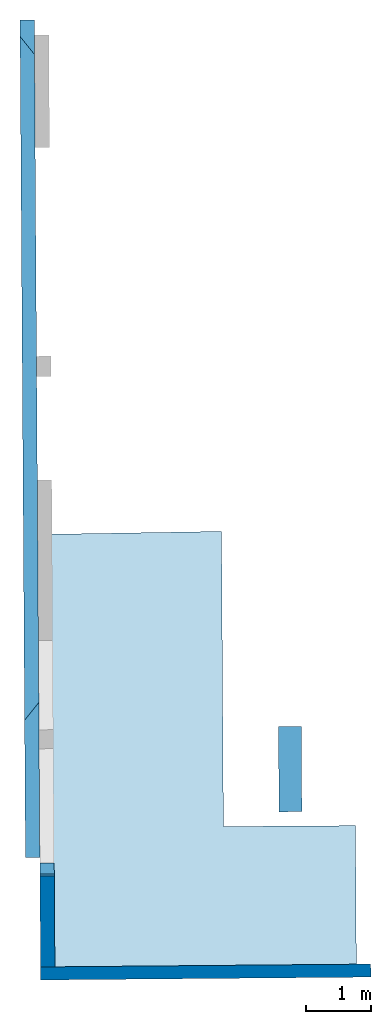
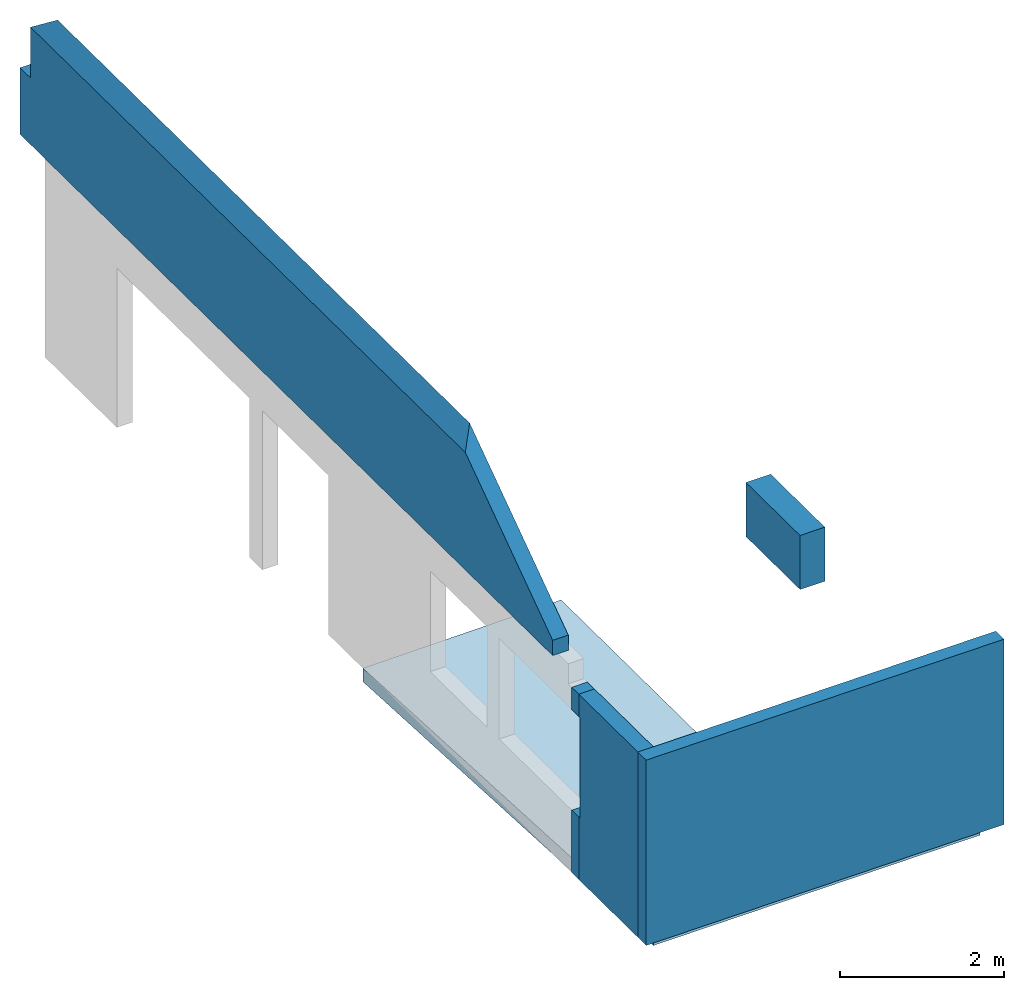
# One storey, part 1 of 2: 5 walls, 1 slab, 5 openings.
"""IFC2X3 building model written with IfcOpenShell, lengths in centimetres."""

import ifcopenshell
import ifcopenshell.guid

model = None  # the IFC model being written
_history = None  # IfcOwnerHistory: only IFC2X3 demands one
_inside = {}  # id of a spatial element -> (the spatial element, [elements in it])
_under = {}  # id of a project, library or spatial element -> (it, [spatial elements below it])
_declared = {}  # id of a project -> (the project, [libraries it declares])
_typed = {}  # id of a type object -> (the type object, [elements of that type])
_made_of = {}  # id of a material, layer set ... -> (it, [elements and type objects made of it])


def new_model(schema):
    """Start an empty IFC model of exactly this schema.

    Asked for "IFC4X3", IfcOpenShell would pick the latest addendum, in which some entities
    have other attributes; the version numbers below select the first issue.
    IFC2X3 requires an IfcOwnerHistory on every rooted entity: one is made here for all.
    """
    global model, _history
    if schema == "IFC4X3":
        model = ifcopenshell.file(schema_version=(4, 3, 0, 0))
    else:
        model = ifcopenshell.file(schema=schema)
    _inside.clear()
    _under.clear()
    _declared.clear()
    _typed.clear()
    _made_of.clear()
    _history = None
    if model.schema == "IFC2X3":
        org = make("IfcOrganization", Name="unknown")
        user = make(
            "IfcPersonAndOrganization",
            ThePerson=make("IfcPerson", FamilyName="unknown"),
            TheOrganization=org,
        )
        app = make(
            "IfcApplication",
            ApplicationDeveloper=org,
            Version="unknown",
            ApplicationFullName="unknown",
            ApplicationIdentifier="unknown",
        )
        _history = make(
            "IfcOwnerHistory",
            OwningUser=user,
            OwningApplication=app,
            ChangeAction="ADDED",
            CreationDate=0,
        )
    return model


def make(cls, **values):
    """One entity of the class cls with the attributes given. An attribute that is None is left unset."""
    return model.create_entity(
        cls, **{name: value for name, value in values.items() if value is not None}
    )


def entity(cls, *values):
    """Any entity or typed value of the class cls, its attributes in the order of the schema. None: left unset."""
    e = model.create_entity(cls)
    for i, value in enumerate(values):
        if value is not None:
            e[i] = value
    return e


def rooted(cls, **values):
    """An entity with a GlobalId (a new one), such as an element, a storey or a relation."""
    return make(cls, GlobalId=ifcopenshell.guid.new(), OwnerHistory=_history, **values)


def si_unit(unit_type, name, prefix=None):
    """IfcSIUnit, for example si_unit("LENGTHUNIT", "METRE", prefix="MILLI")."""
    return make("IfcSIUnit", UnitType=unit_type, Prefix=prefix, Name=name)


def converted_unit(unit_type, name, factor, base, dimensions=None, offset=None):
    """IfcConversionBasedUnit, such as the inch: factor (a typed value) times the base unit."""
    return make(
        "IfcConversionBasedUnit"
        if offset is None
        else "IfcConversionBasedUnitWithOffset",
        ConversionOffset=offset,
        Dimensions=None
        if dimensions is None
        else entity("IfcDimensionalExponents", *dimensions),
        UnitType=unit_type,
        Name=name,
        ConversionFactor=make(
            "IfcMeasureWithUnit", ValueComponent=factor, UnitComponent=base
        ),
    )


def assignment(units):
    """IfcUnitAssignment: the units of a project."""
    return None if units is None else make("IfcUnitAssignment", Units=units)


def point(xyz):
    """IfcCartesianPoint."""
    return None if xyz is None else make("IfcCartesianPoint", Coordinates=xyz)


def direction(xyz):
    """IfcDirection."""
    return None if xyz is None else make("IfcDirection", DirectionRatios=xyz)


def frame(location, z_axis=None, x_axis=None):
    """IfcAxis2Placement3D, a coordinate frame: its origin and axes. An axis left out is left unset."""
    return make(
        "IfcAxis2Placement3D",
        Location=point(location),
        Axis=direction(z_axis),
        RefDirection=direction(x_axis),
    )


def frame_2d(location, x_axis=None):
    """IfcAxis2Placement2D, a coordinate frame in the plane: its origin and x axis."""
    return make(
        "IfcAxis2Placement2D", Location=point(location), RefDirection=direction(x_axis)
    )


def origin():
    """The frame at (0, 0, 0) with its axes left unset."""
    return frame((0.0, 0.0, 0.0))


def place(relative_to, where):
    """IfcLocalPlacement: puts the frame where relative to a parent placement (None: the world)."""
    return make(
        "IfcLocalPlacement", PlacementRelTo=relative_to, RelativePlacement=where
    )


def context(
    kind, dimensions, precision=None, world=None, true_north=None, identifier=None
):
    """IfcGeometricRepresentationContext, for example the 3D "Model" context."""
    return make(
        "IfcGeometricRepresentationContext",
        ContextIdentifier=identifier,
        ContextType=kind,
        CoordinateSpaceDimension=dimensions,
        Precision=precision,
        WorldCoordinateSystem=world,
        TrueNorth=true_north,
    )


def subcontext(parent, identifier, kind, view, scale=None):
    """IfcGeometricRepresentationSubContext, for example "Body" below "Model"."""
    return make(
        "IfcGeometricRepresentationSubContext",
        ContextIdentifier=identifier,
        ContextType=kind,
        ParentContext=parent,
        TargetScale=scale,
        TargetView=view,
    )


def project(units=None, contexts=None):
    """IfcProject with its units and contexts."""
    return rooted(
        "IfcProject",
        Name="project",
        RepresentationContexts=contexts,
        UnitsInContext=assignment(units),
    )


def spatial(cls, under=None, at=None, **own):
    """A site, building, storey or space (cls), placed at a placement, below another one or the project."""
    s = rooted(cls, ObjectPlacement=at, **own)
    if under is not None:
        _under.setdefault(under.id(), (under, []))[1].append(s)
    return s


def polyline(points):
    """IfcPolyline through the points."""
    return make("IfcPolyline", Points=[point(p) for p in points])


def profile(cls, at=None, kind="AREA", **sizes):
    """A parametric profile (cls). Its sizes go by their IFC names, for example OverallWidth=200.0."""
    return make(cls, ProfileType=kind, Position=at, **sizes)


def rectangle(**sizes):
    """IfcRectangleProfileDef."""
    return profile("IfcRectangleProfileDef", **sizes)


def outline(outer, holes=None, kind="AREA"):
    """IfcArbitraryClosedProfileDef: a profile drawn as a closed curve; with holes, ...WithVoids."""
    if holes is None:
        return make("IfcArbitraryClosedProfileDef", ProfileType=kind, OuterCurve=outer)
    return make(
        "IfcArbitraryProfileDefWithVoids",
        ProfileType=kind,
        OuterCurve=outer,
        InnerCurves=holes,
    )


def extrude(swept, where, along, depth):
    """IfcExtrudedAreaSolid: the profile swept, set in the frame where, extruded along a direction by depth."""
    return make(
        "IfcExtrudedAreaSolid",
        SweptArea=swept,
        Position=where,
        ExtrudedDirection=direction(along),
        Depth=depth,
    )


def clip(a, b, op="DIFFERENCE"):
    """IfcBooleanClippingResult: the solid a cut by the half space b."""
    return make(
        "IfcBooleanClippingResult", Operator=op, FirstOperand=a, SecondOperand=b
    )


def bounded_halfspace(plane, agree, where, boundary):
    """IfcPolygonalBoundedHalfSpace: a half space limited to a polygon's prism."""
    return make(
        "IfcPolygonalBoundedHalfSpace",
        BaseSurface=make("IfcPlane", Position=plane),
        AgreementFlag=agree,
        Position=where,
        PolygonalBoundary=boundary,
    )


def shape(context_of_items, identifier, shape_type, items):
    """IfcShapeRepresentation: the items that make up one representation, for example the "Body"."""
    return make(
        "IfcShapeRepresentation",
        ContextOfItems=context_of_items,
        RepresentationIdentifier=identifier,
        RepresentationType=shape_type,
        Items=items,
    )


def material(Name=None, Category=None):
    """IfcMaterial."""
    return make("IfcMaterial", Name=Name, Category=Category)


def layer(
    of_material, thickness, ventilated=None, Name=None, Category=None, Priority=None
):
    """IfcMaterialLayer: one layer of a wall or slab, of a material (None: an air gap)."""
    return make(
        "IfcMaterialLayer",
        Material=of_material,
        LayerThickness=thickness,
        IsVentilated=ventilated,
        Name=Name,
        Category=Category,
        Priority=Priority,
    )


def layer_set(layers, Name=None):
    """IfcMaterialLayerSet."""
    return make("IfcMaterialLayerSet", MaterialLayers=layers, LayerSetName=Name)


def layer_usage(for_layer_set, set_direction, sense, offset, extent=None):
    """IfcMaterialLayerSetUsage: how a layer set lies in its element."""
    return make(
        "IfcMaterialLayerSetUsage",
        ForLayerSet=for_layer_set,
        LayerSetDirection=set_direction,
        DirectionSense=sense,
        OffsetFromReferenceLine=offset,
        ReferenceExtent=extent,
    )


def made_of(thing, what):
    """Note that an element or type object is made of a material, layer set ...; save() writes the relation."""
    if what is not None:
        _made_of.setdefault(what.id(), (what, []))[1].append(thing)
    return thing


def type_object(cls, material=None, **own):
    """A type object (cls), such as IfcWallType, which elements share."""
    return made_of(rooted(cls, **own), material)


def element(
    cls,
    number,
    at=None,
    inside=None,
    cuts=None,
    type_object=None,
    material=None,
    context=None,
    identifier="Body",
    shape_type=None,
    held_by="IfcProductDefinitionShape",
    body=None,
    shapes=None,
    **own,
):
    """One element of the class cls, such as IfcWall. Its Tag is "e" and its number.

    at: its placement. inside: the storey or other place that contains it. cuts: it is an
    opening in that element (IfcRelVoidsElement). A single representation is given by context,
    identifier, shape_type and body (its items); several are given by shapes. held_by: the class
    of the entity that holds the representations. save() writes the other relations.
    """
    e = rooted(cls, Tag="e%d" % number, ObjectPlacement=at, **own)
    if body is not None:
        shapes = [shape(context, identifier, shape_type, body)]
    if shapes is not None:
        e.Representation = make(held_by, Representations=shapes)
    if inside is not None:
        _inside.setdefault(inside.id(), (inside, []))[1].append(e)
    if cuts is not None:
        rooted(
            "IfcRelVoidsElement", RelatingBuildingElement=cuts, RelatedOpeningElement=e
        )
    if type_object is not None:
        _typed.setdefault(type_object.id(), (type_object, []))[1].append(e)
    return made_of(e, material)


def aggregate(whole, parts):
    """IfcRelAggregates: a whole, such as a stair, and the parts it consists of."""
    return rooted("IfcRelAggregates", RelatingObject=whole, RelatedObjects=parts)


def save(model, path):
    """Write the relations noted so far, then the file.

    IfcRelAggregates (storeys below a building ...), IfcRelContainedInSpatialStructure (elements
    in a storey), IfcRelDefinesByType, IfcRelAssociatesMaterial and IfcRelDeclares: one each for
    every whole, place, type object, material and project.
    """
    for whole, parts in _under.values():
        aggregate(whole, parts)
    for where, things in _inside.values():
        rooted(
            "IfcRelContainedInSpatialStructure",
            RelatedElements=things,
            RelatingStructure=where,
        )
    for kind, things in _typed.values():
        rooted("IfcRelDefinesByType", RelatedObjects=things, RelatingType=kind)
    for what, things in _made_of.values():
        rooted("IfcRelAssociatesMaterial", RelatedObjects=things, RelatingMaterial=what)
    for by, libraries in _declared.values():
        rooted("IfcRelDeclares", RelatingContext=by, RelatedDefinitions=libraries)
    model.write(path)


model = new_model("IFC2X3")

# Units and contexts
model_context = context("Model", 3, precision=0.001, world=frame((0.0, 0.0, 13090.0)), true_north=direction((6.123233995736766e-17, 1.0)))
body_context = subcontext(model_context, "Body", "Model", "MODEL_VIEW")
ifc_project = project(units=[si_unit("LENGTHUNIT", "METRE", prefix="CENTI"), si_unit("AREAUNIT", "SQUARE_METRE"), si_unit("VOLUMEUNIT", "CUBIC_METRE"), converted_unit("PLANEANGLEUNIT", "DEGREE", entity("IfcPlaneAngleMeasure", 0.017453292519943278), si_unit("PLANEANGLEUNIT", "RADIAN"), dimensions=[0, 0, 0, 0, 0, 0, 0])], contexts=[model_context])

# Site, building, storey
site_placement = place(None, origin())
site = spatial("IfcSite", under=ifc_project, at=site_placement, Name="Default", CompositionType="ELEMENT")
building_placement = place(site_placement, origin())
building = spatial("IfcBuilding", under=site, at=building_placement, Name="e 39 logements et 22 maisons relais", CompositionType="ELEMENT")
storey_placement = place(building_placement, frame((0.0, 0.0, 14.0)))
storey = spatial("IfcBuildingStorey", under=building, at=storey_placement, Name="131.04", CompositionType="ELEMENT", Elevation=14.000000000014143)

# Slab
ifc_material = material(Name="Béton - Béton coulé sur place")
ifc_layer_1 = layer(ifc_material, 20.0)
ifc_layer_set_1 = layer_set([ifc_layer_1], Name="Sol:Dalle BA - 20")
ifc_layer_usage_1 = layer_usage(ifc_layer_set_1, "AXIS3", "POSITIVE", 0.0)
slab_type = type_object("IfcSlabType", Name="Sol:Dalle BA - 20", PredefinedType="FLOOR", material=ifc_layer_set_1)
slab_placement = place(storey_placement, origin())
element("IfcSlab", 1, at=slab_placement, inside=storey, type_object=slab_type, material=ifc_layer_usage_1, Name="Sol:Dalle BA - 20", ObjectType="Sol:Dalle BA - 20", PredefinedType="FLOOR", context=body_context, shape_type="SweptSolid", body=[
    extrude(outline(polyline([(-255.4386828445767, -373.16697444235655), (26.67628212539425, -373.16697444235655), (22.029072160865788, 79.66072618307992), (224.5823188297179, 81.73945825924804), (222.40067400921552, 294.32060160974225), (-240.24966428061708, 290.6131628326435), (-255.4386828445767, -373.16697444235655)])), frame((-1037.6533310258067, -627.31359057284, 0.0), z_axis=(0.0, 0.0, -1.0), x_axis=(0.9998585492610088, 0.01681908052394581, 0.0)), (0.0, 0.0, 1.0), 19.999999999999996),
])

# Wall
ifc_layer_2 = layer(ifc_material, 20.0)
ifc_layer_set_2 = layer_set([ifc_layer_2], Name="Mur de base:BA - 20cm")
ifc_layer_usage_2 = layer_usage(ifc_layer_set_2, "AXIS2", "POSITIVE", -10.0)
wall_type_1 = type_object("IfcWallType", Name="Mur de base:BA - 20cm", PredefinedType="STANDARD", material=ifc_layer_set_2)
wall_1_placement = place(storey_placement, frame((-1294.9372815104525, -932.1201751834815, 0.0), z_axis=(0.0, 0.0, 1.0), x_axis=(0.9999612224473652, 0.008806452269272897, 0.0)))
element("IfcWallStandardCase", 2, at=wall_1_placement, inside=storey, type_object=wall_type_1, material=ifc_layer_usage_2, Name="Mur de base:BA - 20cm", ObjectType="Mur de base:BA - 20cm", context=body_context, shape_type="SweptSolid", body=[
    extrude(outline(polyline([(506.6653040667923, -10.0), (506.71028368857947, 10.0), (22.045035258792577, 10.0), (0.044979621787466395, 10.0), (0.0, -10.0), (506.6653040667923, -10.0)])), origin(), (0.0, 0.0, 1.0), 276.0000000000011),
])

# Wall, openings
ifc_layer_3 = layer(ifc_material, 22.0)
ifc_layer_set_3 = layer_set([ifc_layer_3], Name="Mur de base:BA - 22cm")
ifc_layer_usage_3 = layer_usage(ifc_layer_set_3, "AXIS2", "NEGATIVE", 11.0)
wall_type_2 = type_object("IfcWallType", Name="Mur de base:BA - 22cm", PredefinedType="STANDARD", material=ifc_layer_set_3)
wall_2_placement = place(storey_placement, frame((-1283.9806046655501, -922.0480338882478, 0.0), z_axis=(0.0, 0.0, 1.0), x_axis=(-0.00655754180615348, 0.9999784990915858, 0.0)))
wall_2 = element("IfcWallStandardCase", 3, at=wall_2_placement, inside=storey, type_object=wall_type_2, material=ifc_layer_usage_3, Name="Mur de base:BA - 22cm", ObjectType="Mur de base:BA - 22cm", context=body_context, shape_type="SweptSolid", body=[
    extrude(outline(polyline([(142.62797412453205, -11.0), (142.627974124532, 11.0), (0.0, 11.0), (0.04947758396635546, -11.0), (142.62797412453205, -11.0)])), origin(), (0.0, 0.0, 1.0), 276.0000000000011),
])
opening_1_placement = place(wall_2_placement, origin())
element("IfcOpeningElement", 4, at=opening_1_placement, cuts=wall_2, Name="Mur de base:BA - 22cm", ObjectType="Opening", context=body_context, shape_type="SweptSolid", body=[
    extrude(rectangle(XDim=150.0, YDim=195.0, at=frame_2d((5.684341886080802e-14, 0.0), x_axis=(0.0, 1.0))), frame((237.29483293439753, -141.3999999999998, 168.0), z_axis=(0.0, 1.0, 0.0), x_axis=(1.0, 0.0, 0.0)), (0.0, 0.0, 1.0), 304.7999999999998),
])
opening_2_placement = place(wall_2_placement, origin())
element("IfcOpeningElement", 5, at=opening_2_placement, cuts=wall_2, Name="Mur de base:BA - 22cm", ObjectType="Opening", context=body_context, shape_type="SweptSolid", body=[
    extrude(rectangle(XDim=150.0, YDim=195.0000000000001, at=frame_2d((0.0, 0.0), x_axis=(0.0, 1.0))), frame((237.12280705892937, -163.39999999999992, 168.0), z_axis=(0.0, 1.0, 0.0), x_axis=(1.0, 0.0, 0.0)), (0.0, 0.0, 1.0), 304.7999999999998),
])

ifc_layer_usage_4 = layer_usage(ifc_layer_set_3, "AXIS2", "NEGATIVE", 11.0)
wall_3_placement = place(storey_placement, frame((-1284.9158935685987, -779.4231263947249, 0.0), z_axis=(0.0, 0.0, 1.0), x_axis=(-0.00655754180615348, 0.9999784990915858, 0.0)))
wall_3 = element("IfcWallStandardCase", 6, at=wall_3_placement, inside=storey, type_object=wall_type_2, material=ifc_layer_usage_4, Name="Mur de base:BA - 22cm", ObjectType="Mur de base:BA - 22cm", context=body_context, shape_type="SweptSolid", body=[
    extrude(rectangle(XDim=17.000000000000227, YDim=21.999999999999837, at=frame_2d((8.500000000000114, 2.398081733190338e-14), x_axis=(-1.0, 0.0))), origin(), (0.0, 0.0, 1.0), 276.0000000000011),
])
opening_3_placement = place(wall_3_placement, origin())
element("IfcOpeningElement", 7, at=opening_3_placement, cuts=wall_3, Name="Mur de base:BA - 22cm", ObjectType="Opening", context=body_context, shape_type="SweptSolid", body=[
    extrude(rectangle(XDim=150.0, YDim=195.0000000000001, at=frame_2d((0.0, 0.0), x_axis=(0.0, 1.0))), frame((94.4948329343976, -163.39999999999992, 168.0), z_axis=(0.0, 1.0, 0.0), x_axis=(1.0, 0.0, 0.0)), (0.0, 0.0, 1.0), 304.7999999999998),
])
opening_4_placement = place(wall_3_placement, origin())
element("IfcOpeningElement", 8, at=opening_4_placement, cuts=wall_3, Name="Mur de base:BA - 22cm", ObjectType="Opening", context=body_context, shape_type="SweptSolid", body=[
    extrude(rectangle(XDim=150.0, YDim=195.0, at=frame_2d((5.684341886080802e-14, 0.0), x_axis=(0.0, 1.0))), frame((94.66685880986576, -141.3999999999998, 168.0), z_axis=(0.0, 1.0, 0.0), x_axis=(1.0, 0.0, 0.0)), (0.0, 0.0, 1.0), 304.7999999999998),
])

# Wall, opening
ifc_layer_usage_5 = layer_usage(ifc_layer_set_3, "AXIS2", "NEGATIVE", 11.0)
wall_4_placement = place(storey_placement, frame((-1307.08144249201, -754.2502264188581, 326.0), z_axis=(0.0, 0.0, 1.0), x_axis=(-0.00655754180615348, 0.9999784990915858, 0.0)))
wall_4 = element("IfcWallStandardCase", 9, at=wall_4_placement, inside=storey, type_object=wall_type_2, material=ifc_layer_usage_5, Name="Mur de base:BA - 22cm", ObjectType="Mur de base:BA - 22cm", context=body_context, shape_type="Clipping", body=[
    clip(clip(clip(extrude(outline(polyline([(1285.1775760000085, -11.0), (1285.2364111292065, 11.0), (0.0, 11.0), (0.0, -11.0), (1285.1775760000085, -11.0)])), origin(), (0.0, 0.0, 1.0), 194.86191098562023), bounded_halfspace(frame((237.98725125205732, -11.0, 194.77102495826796), z_axis=(0.00019886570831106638, 0.6673077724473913, 0.7447820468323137), x_axis=(0.6764040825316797, -0.5486446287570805, 0.4913924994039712)), False, frame((237.98725125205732, -11.0, 194.77102495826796)), polyline([(0.0, 0.0), (994.0634646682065, 0.0), (1021.9255522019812, 22.0), (-27.12300282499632, 22.0), (0.0, 0.0)]))), bounded_halfspace(frame((0.0, -11.0, 22.753703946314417), z_axis=(-0.5859974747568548, 0.0038427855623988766, 0.8103037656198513), x_axis=(-0.00655754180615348, -0.9999784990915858, 0.0)), False, frame((0.0, -11.0, 22.753703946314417)), polyline([(0.0, 0.0), (237.9872512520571, 0.0), (210.8642484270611, 22.0), (0.0, 22.0), (0.0, 0.0)]))), bounded_halfspace(frame((1232.0507159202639, -11.0, 99.16384339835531), z_axis=(0.0, 0.0, 1.0), x_axis=(0.0, 1.0, 0.0)), False, frame((1232.0507159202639, -11.0, 99.16384339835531)), polyline([(0.0, 0.0), (53.12686007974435, 0.0), (53.185695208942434, 22.0), (27.86208753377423, 22.0), (0.0, 0.0)]))),
])
opening_5_placement = place(wall_4_placement, frame((745.6627681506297, -1311.9993664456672, -326.0), z_axis=(0.0, 0.0, 1.0), x_axis=(-0.00655754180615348, -0.9999784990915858, 0.0)))
element("IfcOpeningElement", 10, at=opening_5_placement, cuts=wall_4, Name="Mur de base:BA - 22cm", ObjectType="Opening", context=body_context, shape_type="SweptSolid", body=[
    extrude(rectangle(XDim=150.0, YDim=195.0, at=frame_2d((5.684341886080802e-14, 0.0), x_axis=(0.0, 1.0))), frame((-1144.1397156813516, -683.8310665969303, 168.0), z_axis=(-0.9999784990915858, -0.0065575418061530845, 0.0), x_axis=(-0.0065575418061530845, 0.9999784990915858, 0.0)), (0.0, 0.0, 1.0), 304.7999999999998),
])

# Wall
ifc_layer_4 = layer(ifc_material, 35.0)
ifc_layer_set_4 = layer_set([ifc_layer_4], Name="Mur de base:BA - 35")
ifc_layer_usage_6 = layer_usage(ifc_layer_set_4, "AXIS2", "NEGATIVE", 17.5)
wall_type_3 = type_object("IfcWallType", Name="Mur de base:BA - 35", PredefinedType="STANDARD", material=ifc_layer_set_4)
wall_5_placement = place(storey_placement, frame((-911.5340330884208, -683.9182419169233, 245.500009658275), z_axis=(0.0, 0.0, 1.0), x_axis=(-0.00655754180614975, 0.9999784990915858, 0.0)))
element("IfcWallStandardCase", 11, at=wall_5_placement, inside=storey, type_object=wall_type_3, material=ifc_layer_usage_6, Name="Mur de base:BA - 35", ObjectType="Mur de base:BA - 35", context=body_context, shape_type="SweptSolid", body=[
    extrude(rectangle(XDim=130.7047826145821, YDim=35.00000000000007, at=frame_2d((65.35239130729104, -3.552713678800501e-15), x_axis=(-1.0, 0.0))), origin(), (0.0, 0.0, 1.0), 80.49999034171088),
])

save(model, "model.ifc")
